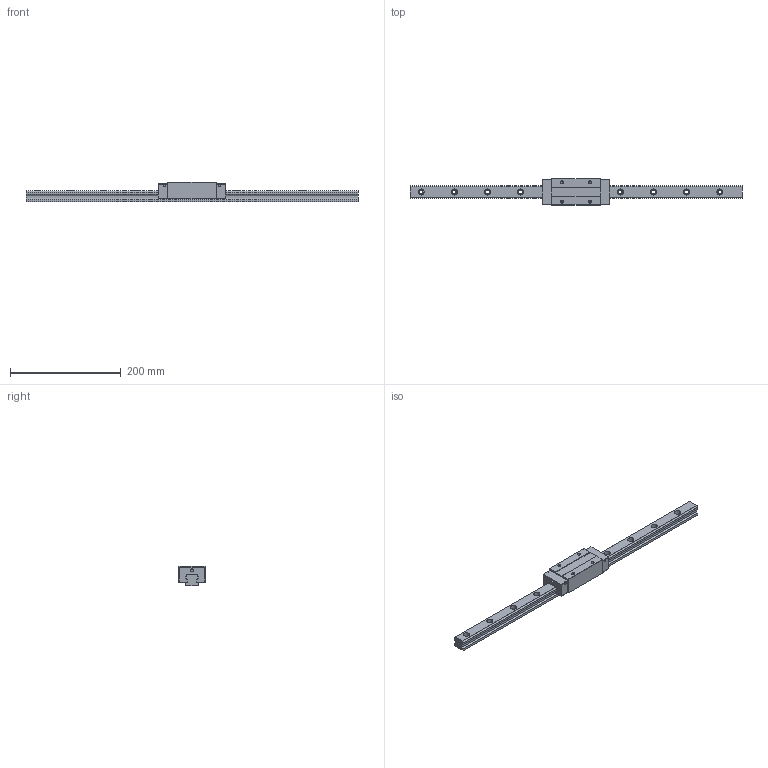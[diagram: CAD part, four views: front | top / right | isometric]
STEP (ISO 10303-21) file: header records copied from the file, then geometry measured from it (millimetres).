
FILE_DESCRIPTION (( 'STEP AP203' ), '1' );
FILE_NAME ('TRC25VE-WU.STEP', '2024-06-13T01:20:40', ( '' ), ( '' ), 'SwSTEP 2.0', 'SolidWorks 2022', '' );
FILE_SCHEMA (( 'CONFIG_CONTROL_DESIGN' ));
Length unit declared in the file: millimetre
Products named in the file (1): TRC25VE-WU
Bounding box: 600 x 48 x 36 mm (x, y, z)
Volume: 366185.2 mm3; surface area: 84564.8 mm2
Topology: 2 solids, 2 shells, 200 faces, 520 edges, 336 vertices
Faces by surface type: cylinder 96, plane 88, cone 16
Entity records: 6223 total; most frequent: DIRECTION 1114, CARTESIAN_POINT 1049, ORIENTED_EDGE 1024, EDGE_CURVE 512, AXIS2_PLACEMENT_3D 401, VERTEX_POINT 336, VECTOR 312, LINE 312
